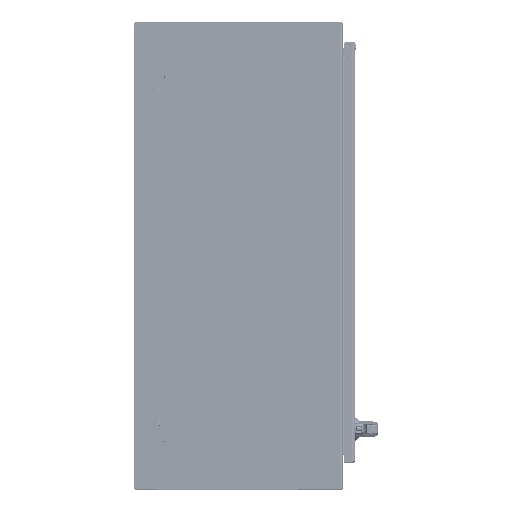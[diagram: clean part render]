
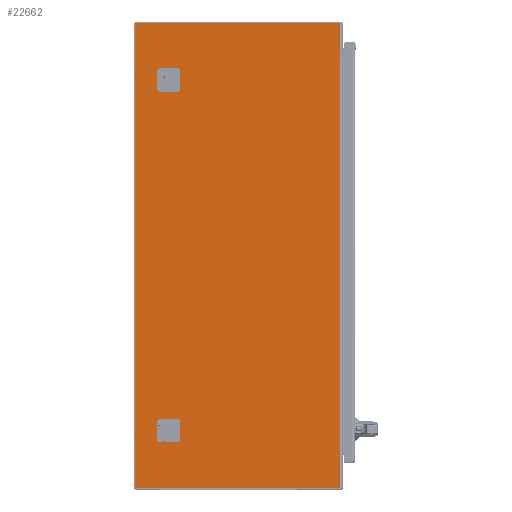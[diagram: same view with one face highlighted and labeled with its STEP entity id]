
A CAD part, top view. The second image highlights one B-rep face of the part: STEP entity #22662.
In plain terms, the highlighted planar face has unit normal (0, 0, 1) as drawn and (0, 1, 0) by its records, which use the part's own axes.
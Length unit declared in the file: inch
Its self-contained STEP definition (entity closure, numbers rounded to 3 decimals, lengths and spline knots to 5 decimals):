
#21425=CARTESIAN_POINT('',(-17.888,0.,-20.013));
#21426=DIRECTION('',(0.,1.,0.));
#21427=DIRECTION('',(0.,0.,-1.));
#21428=AXIS2_PLACEMENT_3D('',#21425,#21426,#21427);
#21433=CARTESIAN_POINT('',(-17.888,0.,20.013));
#21434=DIRECTION('',(0.,1.,0.));
#21435=DIRECTION('',(-1.,0.,0.));
#21436=AXIS2_PLACEMENT_3D('',#21433,#21434,#21435);
#21441=DIRECTION('',(0.,0.,1.));
#21442=VECTOR('',#21441,1.5);
#21443=CARTESIAN_POINT('',(-14.,0.,-15.875));
#21444=LINE('',#21443,#21442);
#21448=CARTESIAN_POINT('',(-14.25,0.,-15.875));
#21449=DIRECTION('',(0.,1.,0.));
#21450=DIRECTION('',(1.,0.,0.));
#21451=AXIS2_PLACEMENT_3D('',#21448,#21449,#21450);
#21456=DIRECTION('',(1.,0.,0.));
#21457=VECTOR('',#21456,1.5);
#21458=CARTESIAN_POINT('',(-15.75,0.,-16.125));
#21459=LINE('',#21458,#21457);
#21463=CARTESIAN_POINT('',(-15.75,0.,-15.875));
#21464=DIRECTION('',(0.,1.,0.));
#21465=DIRECTION('',(0.,0.,-1.));
#21466=AXIS2_PLACEMENT_3D('',#21463,#21464,#21465);
#21471=DIRECTION('',(0.,0.,-1.));
#21472=VECTOR('',#21471,1.5);
#21473=CARTESIAN_POINT('',(-16.,0.,-14.375));
#21474=LINE('',#21473,#21472);
#21478=CARTESIAN_POINT('',(-15.75,0.,-14.375));
#21479=DIRECTION('',(0.,1.,0.));
#21480=DIRECTION('',(-1.,0.,0.));
#21481=AXIS2_PLACEMENT_3D('',#21478,#21479,#21480);
#21486=DIRECTION('',(-1.,0.,0.));
#21487=VECTOR('',#21486,1.5);
#21488=CARTESIAN_POINT('',(-14.25,0.,-14.125));
#21489=LINE('',#21488,#21487);
#21493=CARTESIAN_POINT('',(-14.25,0.,-14.375));
#21494=DIRECTION('',(0.,1.,0.));
#21495=DIRECTION('',(0.,0.,1.));
#21496=AXIS2_PLACEMENT_3D('',#21493,#21494,#21495);
#21501=DIRECTION('',(0.,0.,1.));
#21502=VECTOR('',#21501,1.5);
#21503=CARTESIAN_POINT('',(-14.,0.,14.375));
#21504=LINE('',#21503,#21502);
#21508=CARTESIAN_POINT('',(-14.25,0.,14.375));
#21509=DIRECTION('',(0.,1.,0.));
#21510=DIRECTION('',(1.,0.,0.));
#21511=AXIS2_PLACEMENT_3D('',#21508,#21509,#21510);
#21516=DIRECTION('',(1.,0.,0.));
#21517=VECTOR('',#21516,1.5);
#21518=CARTESIAN_POINT('',(-15.75,0.,14.125));
#21519=LINE('',#21518,#21517);
#21523=CARTESIAN_POINT('',(-15.75,0.,14.375));
#21524=DIRECTION('',(0.,1.,0.));
#21525=DIRECTION('',(0.,0.,-1.));
#21526=AXIS2_PLACEMENT_3D('',#21523,#21524,#21525);
#21531=DIRECTION('',(0.,0.,-1.));
#21532=VECTOR('',#21531,1.5);
#21533=CARTESIAN_POINT('',(-16.,0.,15.875));
#21534=LINE('',#21533,#21532);
#21538=CARTESIAN_POINT('',(-15.75,0.,15.875));
#21539=DIRECTION('',(0.,1.,0.));
#21540=DIRECTION('',(-1.,0.,0.));
#21541=AXIS2_PLACEMENT_3D('',#21538,#21539,#21540);
#21546=DIRECTION('',(-1.,0.,0.));
#21547=VECTOR('',#21546,1.5);
#21548=CARTESIAN_POINT('',(-14.25,0.,16.125));
#21549=LINE('',#21548,#21547);
#21553=CARTESIAN_POINT('',(-14.25,0.,15.875));
#21554=DIRECTION('',(0.,1.,0.));
#21555=DIRECTION('',(0.,0.,1.));
#21556=AXIS2_PLACEMENT_3D('',#21553,#21554,#21555);
#21568=DIRECTION('',(0.,0.,-1.));
#21569=VECTOR('',#21568,40.026);
#21570=CARTESIAN_POINT('',(-17.948,0.,20.013));
#21571=LINE('',#21570,#21569);
#21596=DIRECTION('',(-1.,0.,0.));
#21597=VECTOR('',#21596,17.699);
#21598=CARTESIAN_POINT('',(-0.189,0.,20.073));
#21599=LINE('',#21598,#21597);
#21639=DIRECTION('',(0.,0.,1.));
#21640=VECTOR('',#21639,40.146);
#21641=CARTESIAN_POINT('',(-0.189,0.,-20.073));
#21642=LINE('',#21641,#21640);
#21747=DIRECTION('',(-1.,0.,0.));
#21748=VECTOR('',#21747,17.699);
#21749=CARTESIAN_POINT('',(-0.189,0.,-20.073));
#21750=LINE('',#21749,#21748);
#22447=CARTESIAN_POINT('',(-0.189,0.,20.073));
#22448=VERTEX_POINT('',#22447);
#22449=CARTESIAN_POINT('',(-0.189,0.,-20.073));
#22450=VERTEX_POINT('',#22449);
#22475=CARTESIAN_POINT('',(-17.888,0.,-20.073));
#22476=CARTESIAN_POINT('',(-17.948,0.,-20.013));
#22477=VERTEX_POINT('',#22475);
#22478=VERTEX_POINT('',#22476);
#22483=CARTESIAN_POINT('',(-17.948,0.,20.013));
#22484=CARTESIAN_POINT('',(-17.888,0.,20.073));
#22485=VERTEX_POINT('',#22483);
#22486=VERTEX_POINT('',#22484);
#22491=CARTESIAN_POINT('',(-14.,0.,-15.875));
#22492=CARTESIAN_POINT('',(-14.,0.,-14.375));
#22493=VERTEX_POINT('',#22491);
#22494=VERTEX_POINT('',#22492);
#22495=CARTESIAN_POINT('',(-14.25,0.,-14.125));
#22496=VERTEX_POINT('',#22495);
#22497=CARTESIAN_POINT('',(-15.75,0.,-14.125));
#22498=VERTEX_POINT('',#22497);
#22499=CARTESIAN_POINT('',(-16.,0.,-14.375));
#22500=VERTEX_POINT('',#22499);
#22501=CARTESIAN_POINT('',(-16.,0.,-15.875));
#22502=VERTEX_POINT('',#22501);
#22503=CARTESIAN_POINT('',(-15.75,0.,-16.125));
#22504=VERTEX_POINT('',#22503);
#22505=CARTESIAN_POINT('',(-14.25,0.,-16.125));
#22506=VERTEX_POINT('',#22505);
#22507=CARTESIAN_POINT('',(-14.,0.,14.375));
#22508=CARTESIAN_POINT('',(-14.,0.,15.875));
#22509=VERTEX_POINT('',#22507);
#22510=VERTEX_POINT('',#22508);
#22511=CARTESIAN_POINT('',(-14.25,0.,16.125));
#22512=VERTEX_POINT('',#22511);
#22513=CARTESIAN_POINT('',(-15.75,0.,16.125));
#22514=VERTEX_POINT('',#22513);
#22515=CARTESIAN_POINT('',(-16.,0.,15.875));
#22516=VERTEX_POINT('',#22515);
#22517=CARTESIAN_POINT('',(-16.,0.,14.375));
#22518=VERTEX_POINT('',#22517);
#22519=CARTESIAN_POINT('',(-15.75,0.,14.125));
#22520=VERTEX_POINT('',#22519);
#22521=CARTESIAN_POINT('',(-14.25,0.,14.125));
#22522=VERTEX_POINT('',#22521);
#22607=CARTESIAN_POINT('',(0.,0.,20.073));
#22608=DIRECTION('',(0.,1.,0.));
#22609=DIRECTION('',(-1.,0.,0.));
#22610=AXIS2_PLACEMENT_3D('',#22607,#22608,#22609);
#22611=PLANE('',#22610);
#22613=ORIENTED_EDGE('',*,*,#22612,.F.);
#22615=ORIENTED_EDGE('',*,*,#22614,.F.);
#22617=ORIENTED_EDGE('',*,*,#22616,.T.);
#22619=ORIENTED_EDGE('',*,*,#22618,.T.);
#22621=ORIENTED_EDGE('',*,*,#22620,.F.);
#22623=ORIENTED_EDGE('',*,*,#22622,.T.);
#22624=EDGE_LOOP('',(#22613,#22615,#22617,#22619,#22621,#22623));
#22625=FACE_OUTER_BOUND('',#22624,.F.);
#22627=ORIENTED_EDGE('',*,*,#22626,.F.);
#22629=ORIENTED_EDGE('',*,*,#22628,.T.);
#22631=ORIENTED_EDGE('',*,*,#22630,.F.);
#22633=ORIENTED_EDGE('',*,*,#22632,.T.);
#22635=ORIENTED_EDGE('',*,*,#22634,.F.);
#22637=ORIENTED_EDGE('',*,*,#22636,.T.);
#22639=ORIENTED_EDGE('',*,*,#22638,.F.);
#22641=ORIENTED_EDGE('',*,*,#22640,.T.);
#22642=EDGE_LOOP('',(#22627,#22629,#22631,#22633,#22635,#22637,#22639,#22641));
#22643=FACE_BOUND('',#22642,.F.);
#22645=ORIENTED_EDGE('',*,*,#22644,.F.);
#22647=ORIENTED_EDGE('',*,*,#22646,.T.);
#22649=ORIENTED_EDGE('',*,*,#22648,.F.);
#22651=ORIENTED_EDGE('',*,*,#22650,.T.);
#22653=ORIENTED_EDGE('',*,*,#22652,.F.);
#22655=ORIENTED_EDGE('',*,*,#22654,.T.);
#22657=ORIENTED_EDGE('',*,*,#22656,.F.);
#22659=ORIENTED_EDGE('',*,*,#22658,.T.);
#22660=EDGE_LOOP('',(#22645,#22647,#22649,#22651,#22653,#22655,#22657,#22659));
#22661=FACE_BOUND('',#22660,.F.);
#21429=CIRCLE('',#21428,0.06);
#21437=CIRCLE('',#21436,0.06);
#21452=CIRCLE('',#21451,0.25);
#21467=CIRCLE('',#21466,0.25);
#21482=CIRCLE('',#21481,0.25);
#21497=CIRCLE('',#21496,0.25);
#21512=CIRCLE('',#21511,0.25);
#21527=CIRCLE('',#21526,0.25);
#21542=CIRCLE('',#21541,0.25);
#21557=CIRCLE('',#21556,0.25);
#22612=EDGE_CURVE('',#22477,#22478,#21429,.T.);
#22614=EDGE_CURVE('',#22450,#22477,#21750,.T.);
#22616=EDGE_CURVE('',#22450,#22448,#21642,.T.);
#22618=EDGE_CURVE('',#22448,#22486,#21599,.T.);
#22620=EDGE_CURVE('',#22485,#22486,#21437,.T.);
#22622=EDGE_CURVE('',#22485,#22478,#21571,.T.);
#22626=EDGE_CURVE('',#22493,#22494,#21444,.T.);
#22628=EDGE_CURVE('',#22493,#22506,#21452,.T.);
#22630=EDGE_CURVE('',#22504,#22506,#21459,.T.);
#22632=EDGE_CURVE('',#22504,#22502,#21467,.T.);
#22634=EDGE_CURVE('',#22500,#22502,#21474,.T.);
#22636=EDGE_CURVE('',#22500,#22498,#21482,.T.);
#22638=EDGE_CURVE('',#22496,#22498,#21489,.T.);
#22640=EDGE_CURVE('',#22496,#22494,#21497,.T.);
#22644=EDGE_CURVE('',#22509,#22510,#21504,.T.);
#22646=EDGE_CURVE('',#22509,#22522,#21512,.T.);
#22648=EDGE_CURVE('',#22520,#22522,#21519,.T.);
#22650=EDGE_CURVE('',#22520,#22518,#21527,.T.);
#22652=EDGE_CURVE('',#22516,#22518,#21534,.T.);
#22654=EDGE_CURVE('',#22516,#22514,#21542,.T.);
#22656=EDGE_CURVE('',#22512,#22514,#21549,.T.);
#22658=EDGE_CURVE('',#22512,#22510,#21557,.T.);
#22662=ADVANCED_FACE('',(#22625,#22643,#22661),#22611,.T.);
